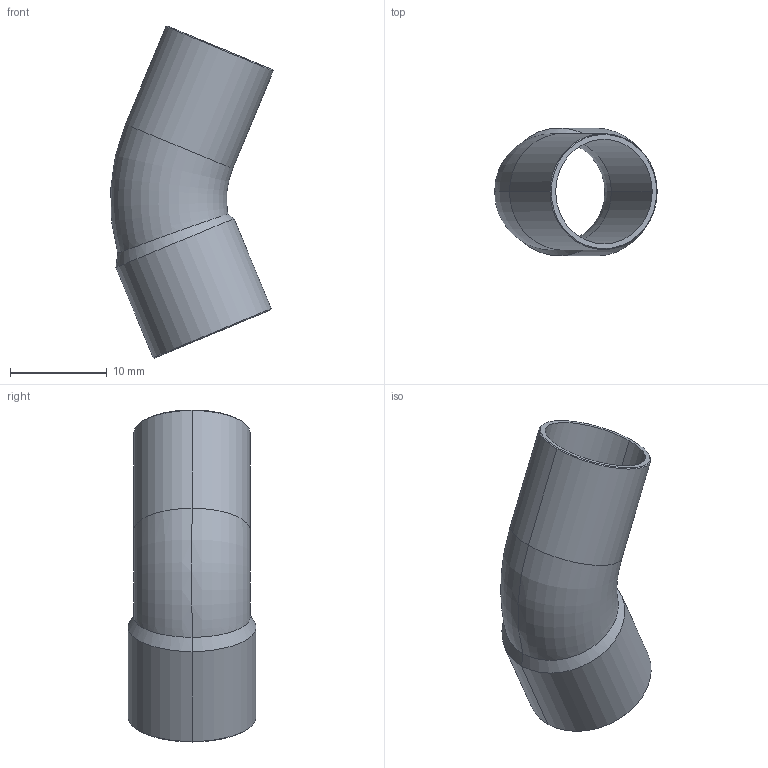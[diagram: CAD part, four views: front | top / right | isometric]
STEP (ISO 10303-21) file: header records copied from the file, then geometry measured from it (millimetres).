
FILE_DESCRIPTION((''),'2;1');
FILE_NAME('P:\Bouwmaten\z-maattekeningen 3D\5000\5040\1504012.stp','2005-10-05T11:02:07',('Kris'),(''),'Autodesk Inventor 8','Autodesk Inventor 8','');
FILE_SCHEMA(('AUTOMOTIVE_DESIGN { 1 0 10303 214 1 1 1 1 }'));
Length unit declared in the file: millimetre
Products named in the file (1): 1504012
Bounding box: 16.79 x 13.2 x 34.31 mm (x, y, z)
Volume: 701.1 mm3; surface area: 2377.5 mm2
Topology: 1 solids, 1 shells, 24 faces, 50 edges, 28 vertices
Faces by surface type: cone 10, cylinder 8, torus 4, plane 2
Entity records: 729 total; most frequent: CARTESIAN_POINT 179, DIRECTION 124, ORIENTED_EDGE 100, AXIS2_PLACEMENT_3D 53, EDGE_CURVE 50, VERTEX_POINT 28, CIRCLE 28, EDGE_LOOP 26
